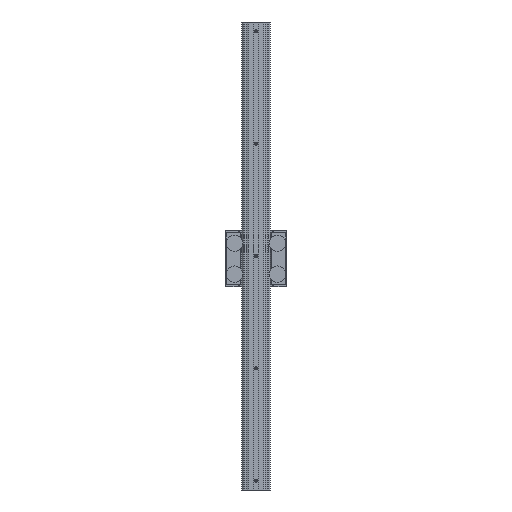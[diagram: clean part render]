
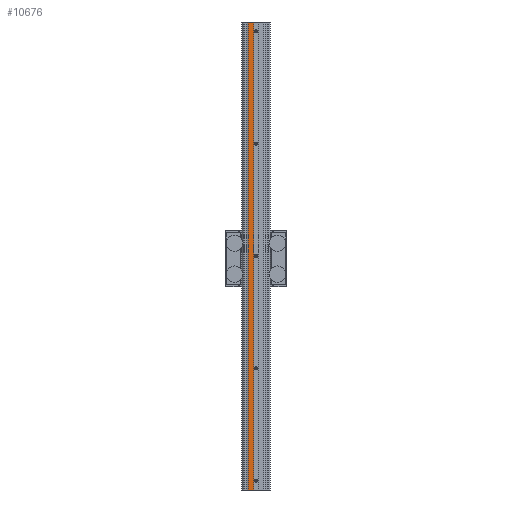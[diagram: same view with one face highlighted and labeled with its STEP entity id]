
A CAD part, front view. The second image highlights one B-rep face of the part: STEP entity #10676.
In plain terms, the highlighted planar face has unit normal (0, -1, 0).
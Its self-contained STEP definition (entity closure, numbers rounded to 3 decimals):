
#53 = LINE ( 'NONE', #9132, #3003 ) ;
#1228 = DIRECTION ( 'NONE',  ( 0., 0., -1. ) ) ;
#1555 = LINE ( 'NONE', #10783, #4515 ) ;
#2654 = LINE ( 'NONE', #7719, #12675 ) ;
#2793 = VERTEX_POINT ( 'NONE', #12285 ) ;
#2854 = DIRECTION ( 'NONE',  ( 1., 0., 0. ) ) ;
#3003 = VECTOR ( 'NONE', #1228, 1000. ) ;
#3221 = DIRECTION ( 'NONE',  ( 0., 1., 0. ) ) ;
#3293 = AXIS2_PLACEMENT_3D ( 'NONE', #9298, #3221, #7243 ) ;
#3521 = EDGE_LOOP ( 'NONE', ( #10075, #12171, #3779, #10573 ) ) ;
#3779 = ORIENTED_EDGE ( 'NONE', *, *, #5711, .F. ) ;
#3893 = VERTEX_POINT ( 'NONE', #4045 ) ;
#4045 = CARTESIAN_POINT ( 'NONE',  ( -17., -20., 1000. ) ) ;
#4214 = FACE_OUTER_BOUND ( 'NONE', #3521, .T. ) ;
#4515 = VECTOR ( 'NONE', #9661, 1000. ) ;
#4857 = VECTOR ( 'NONE', #2854, 1000. ) ;
#5276 = PLANE ( 'NONE',  #3293 ) ;
#5711 = EDGE_CURVE ( 'NONE', #3893, #2793, #11030, .T. ) ;
#7091 = VERTEX_POINT ( 'NONE', #8064 ) ;
#7243 = DIRECTION ( 'NONE',  ( 0., 0., 1. ) ) ;
#7258 = EDGE_CURVE ( 'NONE', #7091, #9222, #2654, .T. ) ;
#7719 = CARTESIAN_POINT ( 'NONE',  ( 0., -20., 0. ) ) ;
#7962 = CARTESIAN_POINT ( 'NONE',  ( -5., -20., 0. ) ) ;
#8064 = CARTESIAN_POINT ( 'NONE',  ( -17., -20., 0. ) ) ;
#9132 = CARTESIAN_POINT ( 'NONE',  ( -17., -20., 1000. ) ) ;
#9222 = VERTEX_POINT ( 'NONE', #7962 ) ;
#9298 = CARTESIAN_POINT ( 'NONE',  ( 0., -20., 1000. ) ) ;
#9661 = DIRECTION ( 'NONE',  ( 0., 0., -1. ) ) ;
#9968 = CARTESIAN_POINT ( 'NONE',  ( 0., -20., 1000. ) ) ;
#10075 = ORIENTED_EDGE ( 'NONE', *, *, #7258, .T. ) ;
#10573 = ORIENTED_EDGE ( 'NONE', *, *, #12371, .T. ) ;
#10676 = ADVANCED_FACE ( 'NONE', ( #4214 ), #5276, .F. ) ;
#10783 = CARTESIAN_POINT ( 'NONE',  ( -5., -20., 1000. ) ) ;
#11030 = LINE ( 'NONE', #9968, #4857 ) ;
#11181 = EDGE_CURVE ( 'NONE', #2793, #9222, #1555, .T. ) ;
#11742 = DIRECTION ( 'NONE',  ( 1., 0., 0. ) ) ;
#12171 = ORIENTED_EDGE ( 'NONE', *, *, #11181, .F. ) ;
#12285 = CARTESIAN_POINT ( 'NONE',  ( -5., -20., 1000. ) ) ;
#12371 = EDGE_CURVE ( 'NONE', #3893, #7091, #53, .T. ) ;
#12675 = VECTOR ( 'NONE', #11742, 1000. ) ;
